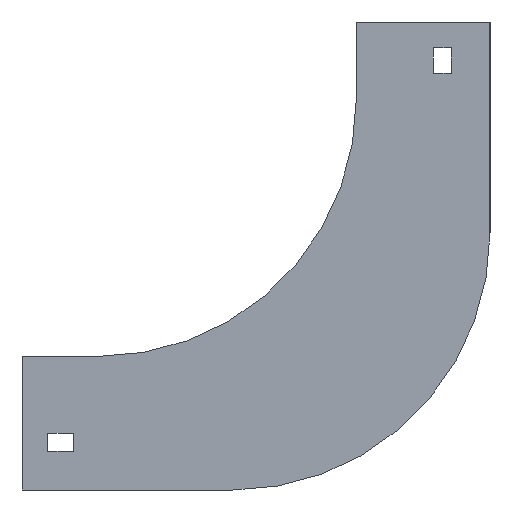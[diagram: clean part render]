
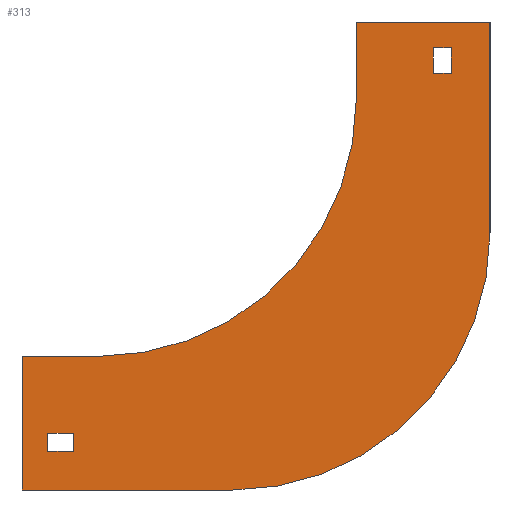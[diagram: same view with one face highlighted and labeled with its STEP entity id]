
A CAD part, left-side view. The second image highlights one B-rep face of the part: STEP entity #313.
In plain terms, the highlighted planar face has unit normal (-1, 0, 0).
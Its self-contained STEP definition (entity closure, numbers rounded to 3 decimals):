
#26 = VERTEX_POINT ( 'NONE', #225 ) ;
#28 = ORIENTED_EDGE ( 'NONE', *, *, #119, .F. ) ;
#29 = EDGE_CURVE ( 'NONE', #416, #26, #463, .T. ) ;
#35 = CARTESIAN_POINT ( 'NONE',  ( -152., -30., -20. ) ) ;
#58 = CARTESIAN_POINT ( 'NONE',  ( -152., -37., -20. ) ) ;
#70 = CARTESIAN_POINT ( 'NONE',  ( -152., -37., -10. ) ) ;
#84 = VERTEX_POINT ( 'NONE', #1122 ) ;
#85 = EDGE_CURVE ( 'NONE', #298, #530, #140, .T. ) ;
#90 = LINE ( 'NONE', #70, #403 ) ;
#113 = DIRECTION ( 'NONE',  ( 0., 0., 1. ) ) ;
#119 = EDGE_CURVE ( 'NONE', #346, #1164, #448, .T. ) ;
#122 = VERTEX_POINT ( 'NONE', #58 ) ;
#123 = ORIENTED_EDGE ( 'NONE', *, *, #1392, .T. ) ;
#140 = LINE ( 'NONE', #576, #1028 ) ;
#148 = AXIS2_PLACEMENT_3D ( 'NONE', #1393, #424, #1368 ) ;
#149 = ORIENTED_EDGE ( 'NONE', *, *, #289, .F. ) ;
#169 = EDGE_CURVE ( 'NONE', #668, #1387, #934, .T. ) ;
#176 = CARTESIAN_POINT ( 'NONE',  ( -152., -30., -10. ) ) ;
#178 = VECTOR ( 'NONE', #113, 1000. ) ;
#206 = VECTOR ( 'NONE', #1211, 1000. ) ;
#213 = DIRECTION ( 'NONE',  ( 0., 0., 1. ) ) ;
#219 = CARTESIAN_POINT ( 'NONE',  ( -152., 110., -160. ) ) ;
#225 = CARTESIAN_POINT ( 'NONE',  ( -152., 130., -130. ) ) ;
#234 = VERTEX_POINT ( 'NONE', #1021 ) ;
#242 = CARTESIAN_POINT ( 'NONE',  ( -152., 130., -130. ) ) ;
#269 = CARTESIAN_POINT ( 'NONE',  ( -152., 0., 0. ) ) ;
#284 = ORIENTED_EDGE ( 'NONE', *, *, #998, .F. ) ;
#289 = EDGE_CURVE ( 'NONE', #84, #416, #635, .T. ) ;
#298 = VERTEX_POINT ( 'NONE', #1291 ) ;
#313 = ADVANCED_FACE ( 'NONE', ( #841, #529, #617 ), #317, .F. ) ;
#317 = PLANE ( 'NONE',  #148 ) ;
#322 = LINE ( 'NONE', #736, #1096 ) ;
#324 = EDGE_LOOP ( 'NONE', ( #1237, #777, #812, #28 ) ) ;
#327 = DIRECTION ( 'NONE',  ( 0., 0., 1. ) ) ;
#328 = LINE ( 'NONE', #219, #1246 ) ;
#332 = EDGE_CURVE ( 'NONE', #234, #122, #90, .T. ) ;
#333 = CARTESIAN_POINT ( 'NONE',  ( -152., 120., -167. ) ) ;
#346 = VERTEX_POINT ( 'NONE', #970 ) ;
#382 = CARTESIAN_POINT ( 'NONE',  ( -152., -52., -82. ) ) ;
#392 = VECTOR ( 'NONE', #1226, 1000. ) ;
#403 = VECTOR ( 'NONE', #1053, 1000. ) ;
#416 = VERTEX_POINT ( 'NONE', #1099 ) ;
#417 = CARTESIAN_POINT ( 'NONE',  ( -152., 130., -182. ) ) ;
#424 = DIRECTION ( 'NONE',  ( 1., 0., 0. ) ) ;
#429 = CARTESIAN_POINT ( 'NONE',  ( -152., 110., -160. ) ) ;
#444 = LINE ( 'NONE', #1309, #988 ) ;
#448 = LINE ( 'NONE', #333, #1265 ) ;
#463 = LINE ( 'NONE', #242, #178 ) ;
#484 = CARTESIAN_POINT ( 'NONE',  ( -152., 100., -30. ) ) ;
#489 = ORIENTED_EDGE ( 'NONE', *, *, #1282, .F. ) ;
#504 = CIRCLE ( 'NONE', #728, 100. ) ;
#518 = DIRECTION ( 'NONE',  ( 0., 0., -1. ) ) ;
#526 = CARTESIAN_POINT ( 'NONE',  ( -152., 110., -167. ) ) ;
#529 = FACE_BOUND ( 'NONE', #923, .T. ) ;
#530 = VERTEX_POINT ( 'NONE', #1037 ) ;
#542 = CARTESIAN_POINT ( 'NONE',  ( -152., 100., -130. ) ) ;
#552 = VERTEX_POINT ( 'NONE', #382 ) ;
#576 = CARTESIAN_POINT ( 'NONE',  ( -152., -30., -10. ) ) ;
#605 = DIRECTION ( 'NONE',  ( 0., -1., 0. ) ) ;
#617 = FACE_BOUND ( 'NONE', #324, .T. ) ;
#635 = LINE ( 'NONE', #417, #1038 ) ;
#636 = CIRCLE ( 'NONE', #853, 100. ) ;
#668 = VERTEX_POINT ( 'NONE', #750 ) ;
#672 = EDGE_LOOP ( 'NONE', ( #1312, #701, #1398, #489, #1020, #149, #284, #756 ) ) ;
#674 = EDGE_CURVE ( 'NONE', #1263, #552, #322, .T. ) ;
#682 = VERTEX_POINT ( 'NONE', #429 ) ;
#690 = VERTEX_POINT ( 'NONE', #542 ) ;
#701 = ORIENTED_EDGE ( 'NONE', *, *, #169, .F. ) ;
#714 = DIRECTION ( 'NONE',  ( 0., 1., 0. ) ) ;
#719 = LINE ( 'NONE', #828, #749 ) ;
#728 = AXIS2_PLACEMENT_3D ( 'NONE', #1244, #839, #1043 ) ;
#729 = DIRECTION ( 'NONE',  ( 0., 1., 0. ) ) ;
#736 = CARTESIAN_POINT ( 'NONE',  ( -152., -52., -82. ) ) ;
#749 = VECTOR ( 'NONE', #714, 1000. ) ;
#750 = CARTESIAN_POINT ( 'NONE',  ( -152., 0., -30. ) ) ;
#756 = ORIENTED_EDGE ( 'NONE', *, *, #674, .F. ) ;
#765 = CARTESIAN_POINT ( 'NONE',  ( -152., 120., -160. ) ) ;
#771 = DIRECTION ( 'NONE',  ( 0., -1., 0. ) ) ;
#777 = ORIENTED_EDGE ( 'NONE', *, *, #1388, .F. ) ;
#812 = ORIENTED_EDGE ( 'NONE', *, *, #1137, .F. ) ;
#826 = CARTESIAN_POINT ( 'NONE',  ( -152., 0., 0. ) ) ;
#828 = CARTESIAN_POINT ( 'NONE',  ( -152., 120., -160. ) ) ;
#839 = DIRECTION ( 'NONE',  ( 1., 0., 0. ) ) ;
#841 = FACE_OUTER_BOUND ( 'NONE', #672, .T. ) ;
#848 = EDGE_CURVE ( 'NONE', #122, #298, #1130, .T. ) ;
#853 = AXIS2_PLACEMENT_3D ( 'NONE', #484, #1154, #932 ) ;
#914 = CARTESIAN_POINT ( 'NONE',  ( -152., -52., 0. ) ) ;
#916 = EDGE_CURVE ( 'NONE', #690, #668, #636, .T. ) ;
#923 = EDGE_LOOP ( 'NONE', ( #1187, #123, #1366, #1383 ) ) ;
#932 = DIRECTION ( 'NONE',  ( 0., 0., -1. ) ) ;
#934 = LINE ( 'NONE', #826, #392 ) ;
#939 = DIRECTION ( 'NONE',  ( 0., -1., 0. ) ) ;
#945 = LINE ( 'NONE', #176, #985 ) ;
#957 = EDGE_CURVE ( 'NONE', #1387, #1263, #1135, .T. ) ;
#960 = CARTESIAN_POINT ( 'NONE',  ( -152., 120., -160. ) ) ;
#966 = LINE ( 'NONE', #960, #1118 ) ;
#970 = CARTESIAN_POINT ( 'NONE',  ( -152., 120., -167. ) ) ;
#982 = DIRECTION ( 'NONE',  ( 0., 0., -1. ) ) ;
#985 = VECTOR ( 'NONE', #605, 1000. ) ;
#988 = VECTOR ( 'NONE', #1124, 1000. ) ;
#998 = EDGE_CURVE ( 'NONE', #552, #84, #504, .T. ) ;
#1020 = ORIENTED_EDGE ( 'NONE', *, *, #29, .F. ) ;
#1021 = CARTESIAN_POINT ( 'NONE',  ( -152., -37., -10. ) ) ;
#1028 = VECTOR ( 'NONE', #327, 1000. ) ;
#1037 = CARTESIAN_POINT ( 'NONE',  ( -152., -30., -10. ) ) ;
#1038 = VECTOR ( 'NONE', #729, 1000. ) ;
#1043 = DIRECTION ( 'NONE',  ( 0., 0., 1. ) ) ;
#1053 = DIRECTION ( 'NONE',  ( 0., 0., -1. ) ) ;
#1096 = VECTOR ( 'NONE', #982, 1000. ) ;
#1098 = VERTEX_POINT ( 'NONE', #765 ) ;
#1099 = CARTESIAN_POINT ( 'NONE',  ( -152., 130., -182. ) ) ;
#1118 = VECTOR ( 'NONE', #518, 1000. ) ;
#1122 = CARTESIAN_POINT ( 'NONE',  ( -152., 48., -182. ) ) ;
#1124 = DIRECTION ( 'NONE',  ( 0., -1., 0. ) ) ;
#1130 = LINE ( 'NONE', #35, #206 ) ;
#1135 = LINE ( 'NONE', #1370, #1227 ) ;
#1137 = EDGE_CURVE ( 'NONE', #1164, #682, #328, .T. ) ;
#1154 = DIRECTION ( 'NONE',  ( -1., 0., 0. ) ) ;
#1162 = EDGE_CURVE ( 'NONE', #1098, #346, #966, .T. ) ;
#1164 = VERTEX_POINT ( 'NONE', #526 ) ;
#1187 = ORIENTED_EDGE ( 'NONE', *, *, #85, .T. ) ;
#1211 = DIRECTION ( 'NONE',  ( 0., 1., 0. ) ) ;
#1226 = DIRECTION ( 'NONE',  ( 0., 0., 1. ) ) ;
#1227 = VECTOR ( 'NONE', #939, 1000. ) ;
#1237 = ORIENTED_EDGE ( 'NONE', *, *, #1162, .F. ) ;
#1244 = CARTESIAN_POINT ( 'NONE',  ( -152., 48., -82. ) ) ;
#1246 = VECTOR ( 'NONE', #213, 1000. ) ;
#1263 = VERTEX_POINT ( 'NONE', #914 ) ;
#1265 = VECTOR ( 'NONE', #771, 1000. ) ;
#1282 = EDGE_CURVE ( 'NONE', #26, #690, #444, .T. ) ;
#1291 = CARTESIAN_POINT ( 'NONE',  ( -152., -30., -20. ) ) ;
#1309 = CARTESIAN_POINT ( 'NONE',  ( -152., 100., -130. ) ) ;
#1312 = ORIENTED_EDGE ( 'NONE', *, *, #957, .F. ) ;
#1366 = ORIENTED_EDGE ( 'NONE', *, *, #332, .T. ) ;
#1368 = DIRECTION ( 'NONE',  ( 0., 0., -1. ) ) ;
#1370 = CARTESIAN_POINT ( 'NONE',  ( -152., -52., 0. ) ) ;
#1383 = ORIENTED_EDGE ( 'NONE', *, *, #848, .T. ) ;
#1387 = VERTEX_POINT ( 'NONE', #269 ) ;
#1388 = EDGE_CURVE ( 'NONE', #682, #1098, #719, .T. ) ;
#1392 = EDGE_CURVE ( 'NONE', #530, #234, #945, .T. ) ;
#1393 = CARTESIAN_POINT ( 'NONE',  ( -152., 100., -30. ) ) ;
#1398 = ORIENTED_EDGE ( 'NONE', *, *, #916, .F. ) ;
